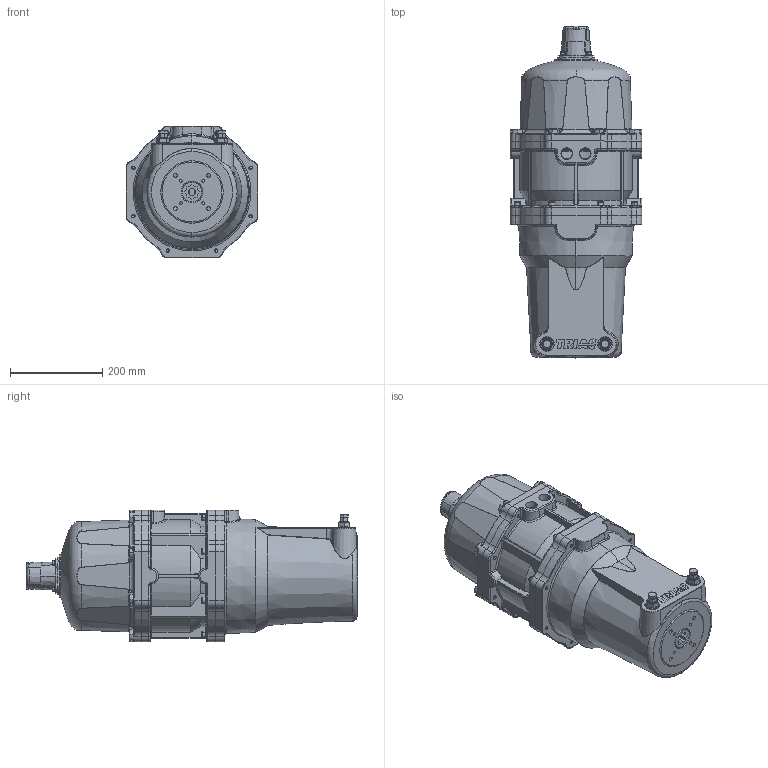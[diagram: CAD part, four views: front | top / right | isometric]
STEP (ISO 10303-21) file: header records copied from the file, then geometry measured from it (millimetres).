
FILE_DESCRIPTION (( 'STEP AP214' ), '1' );
FILE_NAME ('SRX-1800XXX-FC.STEP', '2020-02-20T18:47:22', ( '' ), ( '' ), 'SwSTEP 2.0', 'SolidWorks 2019', '' );
FILE_SCHEMA (( 'AUTOMOTIVE_DESIGN' ));
Length unit declared in the file: inch
Products named in the file (1): SRX-1800XXX-FC
Bounding box: 286 x 721 x 286 mm (x, y, z)
Surface area: 738240 mm2 (no closed solid volume)
Topology: 0 solids, 79 shells, 1593 faces, 4510 edges, 2885 vertices
Faces by surface type: cylinder 568, plane 390, torus 356, bspline 182, cone 91, sphere 6
Entity records: 84055 total; most frequent: CARTESIAN_POINT 23511, DIRECTION 8774, ORIENTED_EDGE 7609, EDGE_CURVE 4498, AXIS2_PLACEMENT_3D 3627, VERTEX_POINT 2885, CIRCLE 2215, EDGE_LOOP 1699
